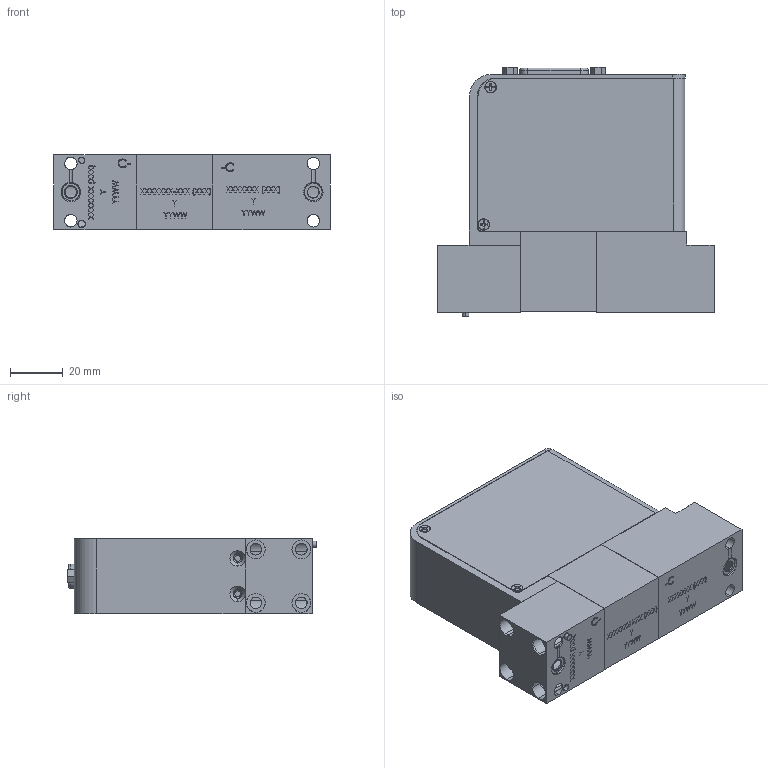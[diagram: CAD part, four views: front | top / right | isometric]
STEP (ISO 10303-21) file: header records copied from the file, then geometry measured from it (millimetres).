
FILE_DESCRIPTION (( 'STEP AP203' ), '1' );
FILE_NAME ('GF120XHT-LX.STEP', '2023-11-30T12:36:06', ( '' ), ( '' ), 'SwSTEP 2.0', 'SolidWorks 2020', '' );
FILE_SCHEMA (( 'CONFIG_CONTROL_DESIGN' ));
Products named in the file (1): GF120XHT-LX
Bounding box: 104.95 x 94.74 x 28.52 mm (x, y, z)
Volume: 44427 mm3; surface area: 61189.2 mm2
Topology: 15 solids, 15 shells, 1679 faces, 4611 edges, 3052 vertices
Faces by surface type: plane 975, cylinder 369, cone 186, bspline 119, torus 30
Entity records: 67302 total; most frequent: CARTESIAN_POINT 25693, ORIENTED_EDGE 9186, DIRECTION 7777, EDGE_CURVE 4593, VERTEX_POINT 3052, LINE 2835, VECTOR 2835, AXIS2_PLACEMENT_3D 2471
